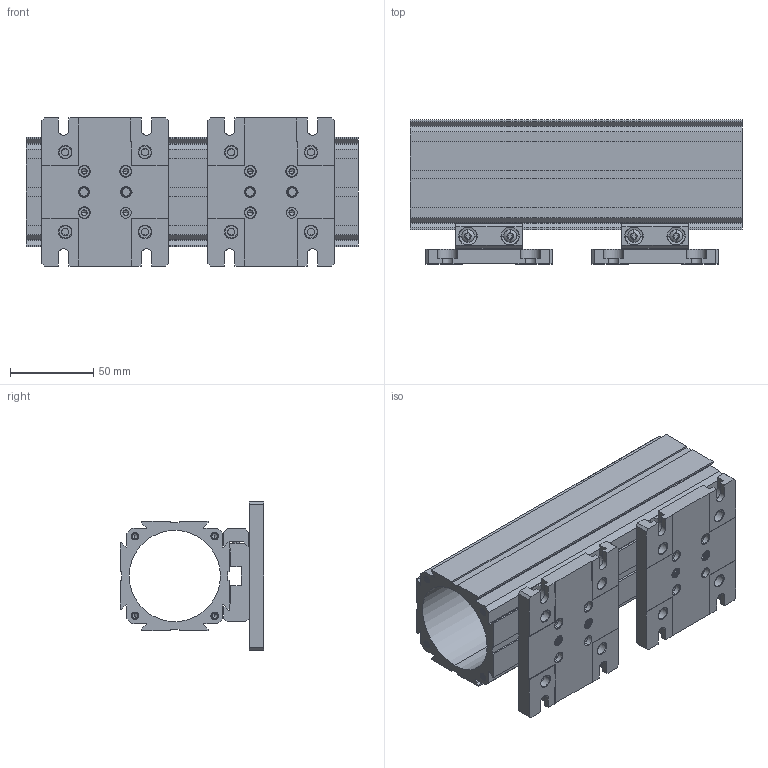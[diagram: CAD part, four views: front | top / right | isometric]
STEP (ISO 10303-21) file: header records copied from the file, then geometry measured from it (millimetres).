
FILE_DESCRIPTION((''),'2;1');
FILE_NAME('OPH-B200_ASM','2021-06-24T',('Administrator'),(''),'CREO PARAMETRIC BY PTC INC, 2015290','CREO PARAMETRIC BY PTC INC, 2015290','');
FILE_SCHEMA(('CONFIG_CONTROL_DESIGN'));
Products named in the file (8): M4X12_HP; WASHER_M4; OOP-MA_A1; OOP-MA_A2; OOP-MA_ASM; OPS-ML; OPH_A200; OPH-B200_ASM
Assembly tree (11 placements, depth 3):
  OPH-B200_ASM
    OOP-MA_ASM  x2
      M4X12_HP
      WASHER_M4
      OOP-MA_A1
      OOP-MA_A2
    OPS-ML  x2
    OPH_A200
Bounding box: 200 x 86.73 x 89.28 mm (x, y, z)
Volume: 459089.7 mm3; surface area: 154888.1 mm2
Topology: 15 solids, 15 shells, 1262 faces, 3620 edges, 2312 vertices
Faces by surface type: cylinder 476, plane 322, bspline 312, cone 132, extrusion 12, sphere 8
Entity records: 52555 total; most frequent: CARTESIAN_POINT 34444, ORIENTED_EDGE 4340, DIRECTION 2766, EDGE_CURVE 2170, VERTEX_POINT 1403, VECTOR 1052, LINE 1049, AXIS2_PLACEMENT_3D 857
